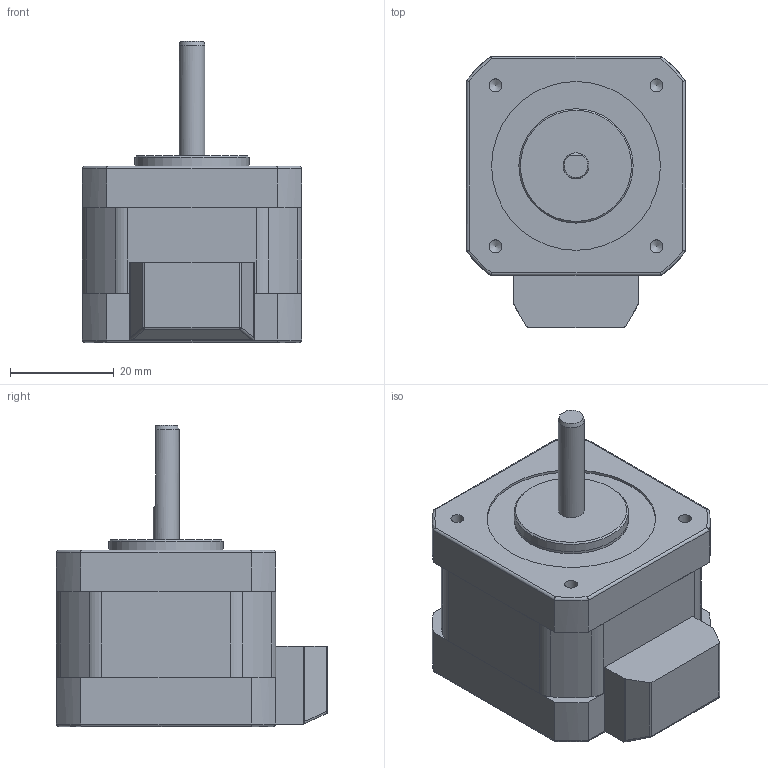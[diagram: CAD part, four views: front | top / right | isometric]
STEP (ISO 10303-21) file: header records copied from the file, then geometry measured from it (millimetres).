
FILE_DESCRIPTION( ('This file contains a STEP AP42 implementation' ,'as created by ZW3D STEP Interface translator.') ,'2;1' );
FILE_NAME( 'AM510A-42A0025-0000.stp' ,'24 719.185236', (''), ('ZWCAD Software Co.'), 'Version 1.0', 'ZW3D to STEP translator', '' );
FILE_SCHEMA(('AUTOMOTIVE_DESIGN { 1 0 10303 214 1 1 1 1 }'));
Length unit declared in the file: millimetre
Products named in the file (2): 0; AM510A-42A0025-0000
Bounding box: 42.2 x 52.2 x 58 mm (x, y, z)
Volume: 62359.8 mm3; surface area: 18466.1 mm2
Topology: 6 solids, 6 shells, 99 faces, 264 edges, 227 vertices
Faces by surface type: cylinder 43, plane 34, bspline 14, cone 6, sphere 2
Full cylindrical faces by diameter (mm): 2.5 x8, 5 x1, 22 x2, 32.5 x1
Entity records: 3556 total; most frequent: CARTESIAN_POINT 1067, DIRECTION 486, ORIENTED_EDGE 440, EDGE_CURVE 220, AXIS2_PLACEMENT_3D 179, VERTEX_POINT 139, VECTOR 128, LINE 128
